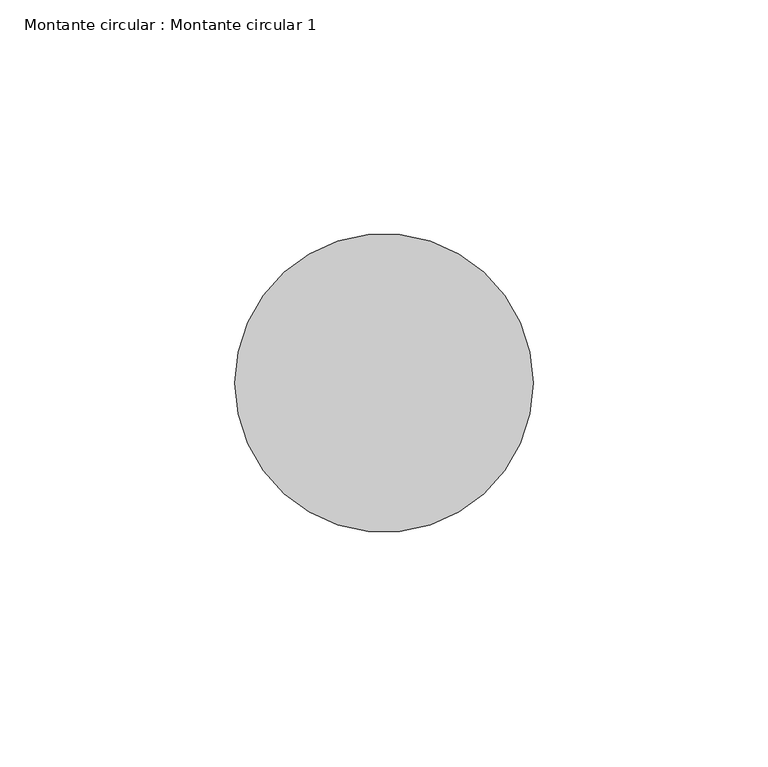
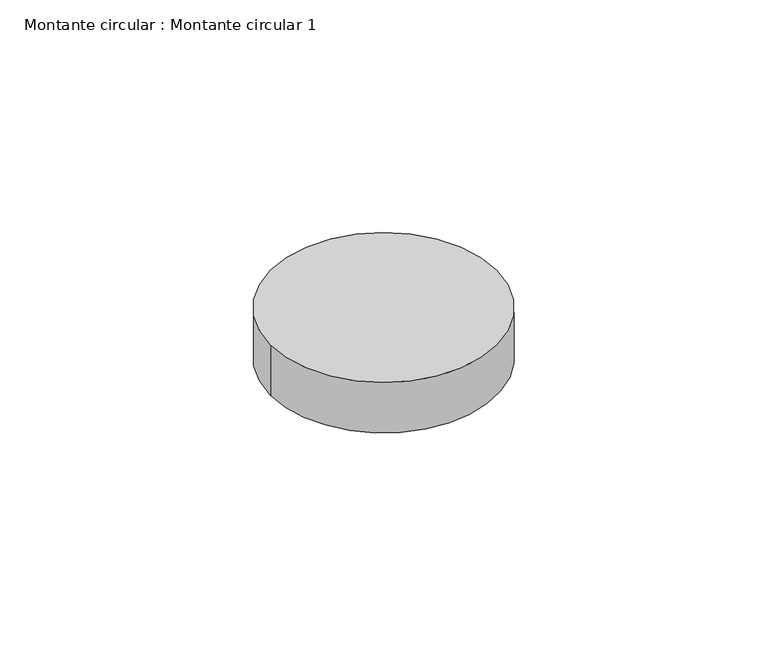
"""IFC4 building model written with IfcOpenShell, lengths in millimetres: member geometry, Montante circular : Montante circular 1."""

from ifc_helpers import new_model, si_unit, point, frame, origin, origin_2d, place, context, project, spatial, circle_curve, trimmed, segment, composite_curve, outline, extrude, source, transform, mapped, element, save


def montante_circular_montante_circular_1_d2eff8d0(model_context):
    return source(origin(), model_context, "Body", "SweptSolid", [
        extrude(outline(composite_curve([segment(trimmed(circle_curve(origin_2d(), 31.75), [point((31.75, 0.0))], [point((-31.75, 0.0))], False, "CARTESIAN"), True, "CONTINUOUS"), segment(trimmed(circle_curve(origin_2d(), 31.75), [point((-31.75, 0.0))], [point((31.75, 0.0))], False, "CARTESIAN"), True, "CONTINUOUS")], self_intersect=False)), frame((0.0, 0.0, -15.0), z_axis=(0.0, 0.0, 1.0), x_axis=(1.0, 0.0, 0.0)), (0.0, 0.0, 1.0), 15.0),
    ])


if __name__ == "__main__":
    model = new_model("IFC4")
    model_context = context("Model", 3, world=origin())
    ifc_project = project(units=[si_unit("LENGTHUNIT", "METRE", prefix="MILLI")], contexts=[model_context])
    site = spatial("IfcSite", under=ifc_project)
    building = spatial("IfcBuilding", under=site)
    placement = place(None, origin())
    montante_circular_montante_circular_1_shape = montante_circular_montante_circular_1_d2eff8d0(model_context)
    element("IfcMember", 1, ObjectType="Montante circular : Montante circular 1", at=placement, inside=building, context=model_context, shape_type="MappedRepresentation", body=[
        mapped(montante_circular_montante_circular_1_shape, transform((0.0, 0.0, 0.0), x_axis=(1.0, 0.0, 0.0), y_axis=(0.0, 1.0, 0.0), z_axis=(0.0, 0.0, 1.0))),
    ])
    save(model, "model.ifc")
